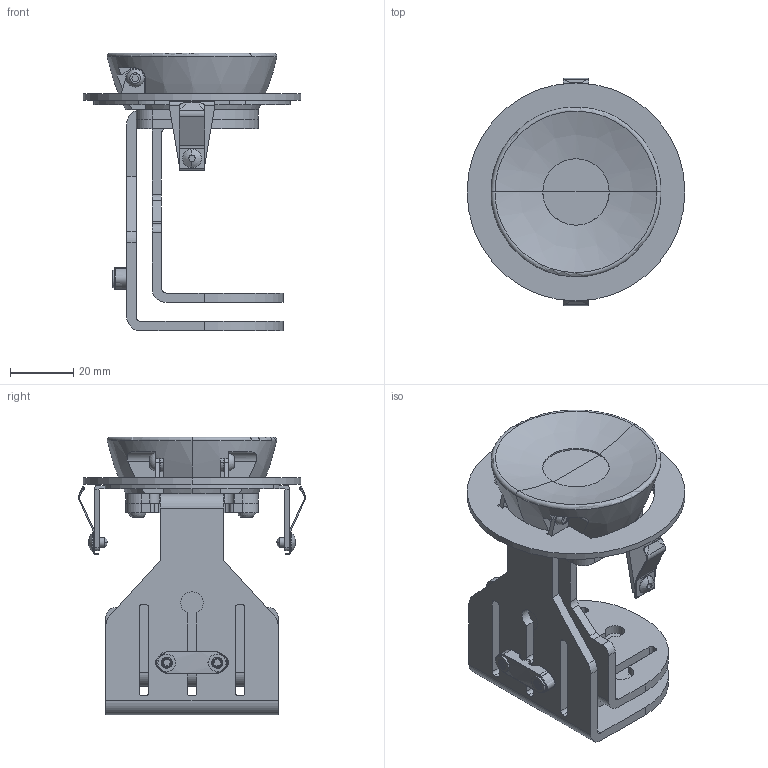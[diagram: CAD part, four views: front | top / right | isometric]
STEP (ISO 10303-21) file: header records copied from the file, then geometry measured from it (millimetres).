
FILE_DESCRIPTION(/* description */ (''),/* implementation_level */ '2;1');
FILE_NAME(/* name */ 'C:\Users\FrancoSartori\Documents\FARO\01_En Proceso\0000_2022\000_PRO\000_TEIDE\03_Publicación\03 TEIDE module Recessed.stp',/* time_stamp */ '2022-06-03T08:17:59+02:00',/* author */ ('FrancoSartori'),/* organization */ (''),/* preprocessor_version */ 'ST-DEVELOPER v19',/* originating_system */ 'AutoCAD Mechanical',/* authorisation */ '');
FILE_SCHEMA (('AUTOMOTIVE_DESIGN { 1 0 10303 214 3 1 1 }'));
Length unit declared in the file: millimetre
Products named in the file (6): Product; TEIDE M Recessed_ - Lamp-762033-Export; TEIDE M Recessed_ - 003 modulo RECessed_dwg_M3äXÀ_á$_M3x3
_5äXÀ_á$_îAÔO-761932-Export; TEIDE M Recessed_ - 003 modulo RECessed_dwg_NS-2336 __$ôÉí
$$Æ_-761931-Export; TEIDE M Recessed_ - 003 modulo RECessed_dwg_M3äXÀ_á$_M3x3
_5äXÀ_á$_îAÔO-761932-Export_1; TEIDE M Recessed_ - 003 modulo RECessed_dwg_NS-2336 __$ôÉí
$$Æ_-761931-Export_1
Assembly tree (5 placements, depth 3):
  Product
    TEIDE M Recessed_ - Lamp-762033-Export
      TEIDE M Recessed_ - 003 modulo RECessed_dwg_M3äXÀ_á$_M3x3
_5äXÀ_á$_îAÔO-761932-Export
      TEIDE M Recessed_ - 003 modulo RECessed_dwg_NS-2336 __$ôÉí
$$Æ_-761931-Export
      TEIDE M Recessed_ - 003 modulo RECessed_dwg_M3äXÀ_á$_M3x3
_5äXÀ_á$_îAÔO-761932-Export_1
      TEIDE M Recessed_ - 003 modulo RECessed_dwg_NS-2336 __$ôÉí
$$Æ_-761931-Export_1
Bounding box: 68.99 x 71.9 x 87.93 mm (x, y, z)
Volume: 53405 mm3; surface area: 46393.2 mm2
Topology: 10 solids, 43 shells, 1659 faces, 3409 edges, 1816 vertices
Faces by surface type: cone 778, cylinder 561, plane 269, torus 23, bspline 20, sphere 8
Entity records: 45988 total; most frequent: CARTESIAN_POINT 10867, DIRECTION 8089, ORIENTED_EDGE 6565, EDGE_CURVE 3378, AXIS2_PLACEMENT_3D 3261, VERTEX_POINT 1797, EDGE_LOOP 1770, FACE_OUTER_BOUND 1656
